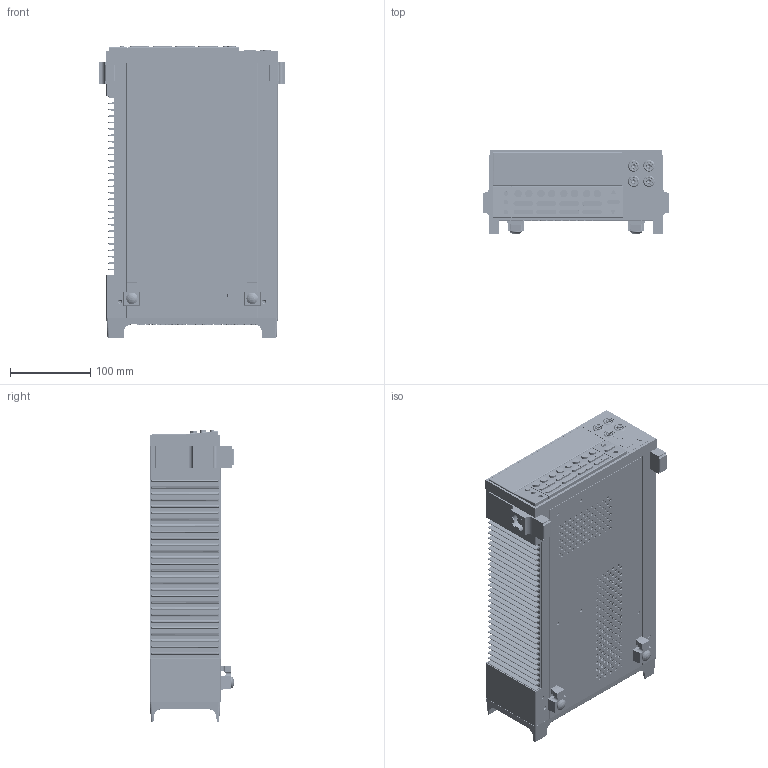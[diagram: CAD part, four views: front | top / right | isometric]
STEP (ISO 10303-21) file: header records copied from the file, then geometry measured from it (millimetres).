
FILE_DESCRIPTION((''),'2;1');
FILE_NAME('2400_ASM','2015-04-28T',('jpeters'),('Keithley Instruments, Inc'),'PRO/ENGINEER BY PARAMETRIC TECHNOLOGY CORPORATION, 2012480','PRO/ENGINEER BY PARAMETRIC TECHNOLOGY CORPORATION, 2012480','');
FILE_SCHEMA(('CONFIG_CONTROL_DESIGN'));
Length unit declared in the file: inch
Products named in the file (44): 2400-301; 2400-303; 2400-304; 2400-303_ASM; 2400-302_ASM; BJ-14-SHELL; BJ-14-PIN; BJ-14-0_ASM; BJ-14-2_ASM; BJ-14-9_ASM; BJ-14-6_ASM; 2400-333; CS-507; CS-761-9; CS-792; CS-848-9; 2400-140_ASM; CS-713; CS-725; LF-11-PURCHPART; 428-319; FE-6; 2400-308; 2400-ANALOG-SHIELD-ASSY_ASM; 2001-302_AF0; 2400-318_ASM; 2400-307; 2400-306_ASM; 2001-318; 2400-337_ASM; 2400-313-NO-TAIL; 2400-313_ASM; 2400-110; GCS-1-2; 2000-324; GCS-1-2_ASM; 2400-311_ASM; 2400-FRONT-PANEL_ASM; 2400-317; 428-303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
Assembly tree (63 placements, depth 5):
  2400_ASM
    2400-302_ASM
      2400-301
      2400-303_ASM
        2400-303
        2400-304
    BJ-14-0_ASM  x2
      BJ-14-SHELL
      BJ-14-PIN
    BJ-14-2_ASM  x2
      BJ-14-SHELL
      BJ-14-PIN
    BJ-14-9_ASM
      BJ-14-SHELL
      BJ-14-PIN
    BJ-14-6_ASM
      BJ-14-SHELL
      BJ-14-PIN
    2400-333  x2
    2400-140_ASM
      CS-507
      CS-761-9
      CS-792
      CS-848-9
    CS-713  x2
    CS-725  x4
    LF-11-PURCHPART
    428-319  x2
    FE-6  x2
    2400-ANALOG-SHIELD-ASSY_ASM
      2400-308
    2400-FRONT-PANEL_ASM
      2400-306_ASM
        2400-318_ASM
          2001-302_AF0
        2400-307
      2400-337_ASM
        2001-318
      2400-313_ASM
        2400-313-NO-TAIL
      BJ-14-2_ASM  x2
        BJ-14-SHELL
        BJ-14-PIN
      BJ-14-0_ASM  x2
        BJ-14-SHELL
        BJ-14-PIN
      2400-110
      2400-311_ASM
        GCS-1-2_ASM
          GCS-1-2
          2000-324
    2400-317
    428-303
    428-328
    428-338
    FE-22  x2
Bounding box: 232.56 x 105.44 x 365.68 mm (x, y, z)
Volume: 831562 mm3; surface area: 769126.7 mm2
Topology: 55 solids, 55 shells, 7049 faces, 19096 edges, 12594 vertices
Faces by surface type: plane 4783, cylinder 1962, cone 168, torus 89, sphere 28, bspline 19
Entity records: 200809 total; most frequent: CARTESIAN_POINT 37572, ORIENTED_EDGE 34146, DIRECTION 32406, EDGE_CURVE 17073, VECTOR 13522, LINE 13522, VERTEX_POINT 11332, AXIS2_PLACEMENT_3D 9442
